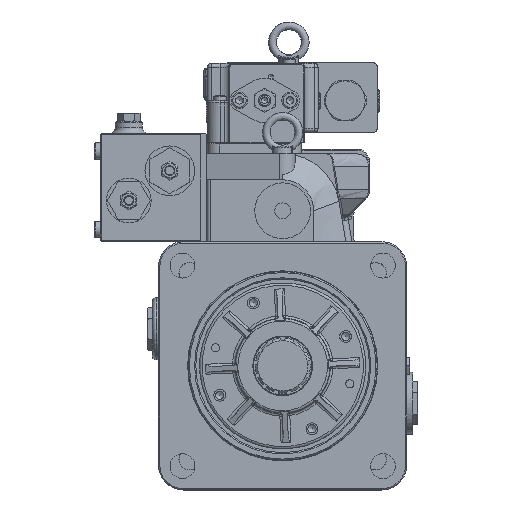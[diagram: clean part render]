
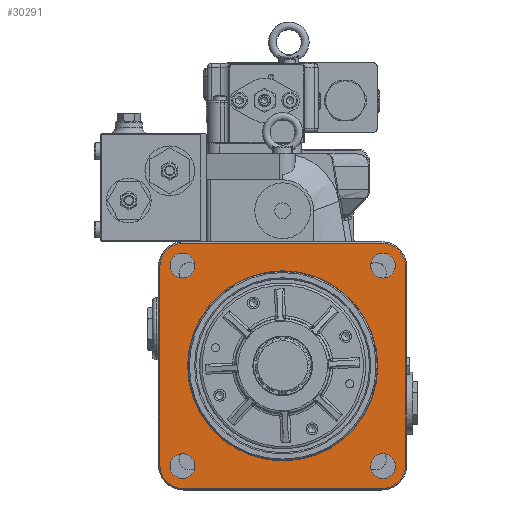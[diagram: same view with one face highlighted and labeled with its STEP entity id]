
A CAD part, top view. The second image highlights one B-rep face of the part: STEP entity #30291.
In plain terms, the highlighted planar face has unit normal (0, 0, 1).
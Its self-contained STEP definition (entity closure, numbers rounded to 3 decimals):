
#990=LINE('',#49852,#2873);
#995=LINE('',#49870,#2878);
#999=LINE('',#49877,#2882);
#1003=LINE('',#49892,#2886);
#2873=VECTOR('',#38251,0.394);
#2878=VECTOR('',#38270,0.394);
#2882=VECTOR('',#38276,0.394);
#2886=VECTOR('',#38294,0.394);
#4941=PLANE('',#32944);
#6172=FACE_BOUND('',#9416,.T.);
#6173=FACE_BOUND('',#9417,.T.);
#6174=FACE_BOUND('',#9418,.T.);
#6175=FACE_BOUND('',#9419,.T.);
#6176=FACE_BOUND('',#9420,.T.);
#7186=FACE_OUTER_BOUND('',#9415,.T.);
#9415=EDGE_LOOP('',(#21916,#21917,#21918,#21919,#21920,#21921,#21922,#21923));
#9416=EDGE_LOOP('',(#21924));
#9417=EDGE_LOOP('',(#21925));
#9418=EDGE_LOOP('',(#21926));
#9419=EDGE_LOOP('',(#21927));
#9420=EDGE_LOOP('',(#21928));
#11434=CIRCLE('',#32555,0.394);
#11436=CIRCLE('',#32558,0.394);
#11438=CIRCLE('',#32561,0.394);
#11440=CIRCLE('',#32564,0.394);
#11639=CIRCLE('',#32927,0.748);
#11642=CIRCLE('',#32931,0.748);
#11643=CIRCLE('',#32935,0.748);
#11646=CIRCLE('',#32939,0.748);
#11647=CIRCLE('',#32945,3.016);
#13275=VERTEX_POINT('',#47654);
#13277=VERTEX_POINT('',#47659);
#13279=VERTEX_POINT('',#47664);
#13281=VERTEX_POINT('',#47669);
#13583=VERTEX_POINT('',#49849);
#13584=VERTEX_POINT('',#49851);
#13586=VERTEX_POINT('',#49856);
#13587=VERTEX_POINT('',#49861);
#13590=VERTEX_POINT('',#49868);
#13591=VERTEX_POINT('',#49873);
#13594=VERTEX_POINT('',#49880);
#13595=VERTEX_POINT('',#49885);
#13597=VERTEX_POINT('',#49900);
#16183=EDGE_CURVE('',#13275,#13275,#11434,.T.);
#16185=EDGE_CURVE('',#13277,#13277,#11436,.T.);
#16187=EDGE_CURVE('',#13279,#13279,#11438,.T.);
#16189=EDGE_CURVE('',#13281,#13281,#11440,.T.);
#16629=EDGE_CURVE('',#13583,#13584,#990,.T.);
#16632=EDGE_CURVE('',#13586,#13583,#11639,.T.);
#16636=EDGE_CURVE('',#13584,#13587,#11642,.T.);
#16638=EDGE_CURVE('',#13590,#13586,#995,.T.);
#16642=EDGE_CURVE('',#13587,#13591,#999,.T.);
#16644=EDGE_CURVE('',#13594,#13590,#11643,.T.);
#16648=EDGE_CURVE('',#13591,#13595,#11646,.T.);
#16650=EDGE_CURVE('',#13595,#13594,#1003,.T.);
#16654=EDGE_CURVE('',#13597,#13597,#11647,.T.);
#21916=ORIENTED_EDGE('',*,*,#16629,.F.);
#21917=ORIENTED_EDGE('',*,*,#16632,.F.);
#21918=ORIENTED_EDGE('',*,*,#16638,.F.);
#21919=ORIENTED_EDGE('',*,*,#16644,.F.);
#21920=ORIENTED_EDGE('',*,*,#16650,.F.);
#21921=ORIENTED_EDGE('',*,*,#16648,.F.);
#21922=ORIENTED_EDGE('',*,*,#16642,.F.);
#21923=ORIENTED_EDGE('',*,*,#16636,.F.);
#21924=ORIENTED_EDGE('',*,*,#16183,.T.);
#21925=ORIENTED_EDGE('',*,*,#16185,.T.);
#21926=ORIENTED_EDGE('',*,*,#16187,.T.);
#21927=ORIENTED_EDGE('',*,*,#16189,.T.);
#21928=ORIENTED_EDGE('',*,*,#16654,.F.);
#30291=ADVANCED_FACE('',(#7186,#6172,#6173,#6174,#6175,#6176),#4941,.T.);
#32555=AXIS2_PLACEMENT_3D('',#47655,#37342,#37343);
#32558=AXIS2_PLACEMENT_3D('',#47660,#37348,#37349);
#32561=AXIS2_PLACEMENT_3D('',#47665,#37354,#37355);
#32564=AXIS2_PLACEMENT_3D('',#47670,#37360,#37361);
#32927=AXIS2_PLACEMENT_3D('',#49858,#38256,#38257);
#32931=AXIS2_PLACEMENT_3D('',#49865,#38265,#38266);
#32935=AXIS2_PLACEMENT_3D('',#49882,#38280,#38281);
#32939=AXIS2_PLACEMENT_3D('',#49889,#38289,#38290);
#32944=AXIS2_PLACEMENT_3D('',#49899,#38304,#38305);
#32945=AXIS2_PLACEMENT_3D('',#49901,#38306,#38307);
#37342=DIRECTION('center_axis',(0.,0.,-1.));
#37343=DIRECTION('ref_axis',(-1.,0.,0.));
#37348=DIRECTION('center_axis',(0.,0.,-1.));
#37349=DIRECTION('ref_axis',(-1.,0.,0.));
#37354=DIRECTION('center_axis',(0.,0.,-1.));
#37355=DIRECTION('ref_axis',(-1.,0.,0.));
#37360=DIRECTION('center_axis',(0.,0.,-1.));
#37361=DIRECTION('ref_axis',(-1.,0.,0.));
#38251=DIRECTION('',(1.,0.,0.));
#38256=DIRECTION('center_axis',(0.,0.,-1.));
#38257=DIRECTION('ref_axis',(0.,1.,0.));
#38265=DIRECTION('center_axis',(0.,0.,-1.));
#38266=DIRECTION('ref_axis',(1.,0.,0.));
#38270=DIRECTION('',(0.,1.,0.));
#38276=DIRECTION('',(0.,-1.,0.));
#38280=DIRECTION('center_axis',(0.,0.,-1.));
#38281=DIRECTION('ref_axis',(-1.,0.,0.));
#38289=DIRECTION('center_axis',(0.,0.,-1.));
#38290=DIRECTION('ref_axis',(0.,-1.,0.));
#38294=DIRECTION('',(-1.,0.,0.));
#38304=DIRECTION('center_axis',(0.,0.,1.));
#38305=DIRECTION('ref_axis',(1.,0.,0.));
#38306=DIRECTION('center_axis',(0.,0.,1.));
#38307=DIRECTION('ref_axis',(-1.,0.,0.));
#47654=CARTESIAN_POINT('',(3.575,-3.181,0.906));
#47655=CARTESIAN_POINT('Origin',(3.181,-3.181,0.906));
#47659=CARTESIAN_POINT('',(-2.787,3.181,0.906));
#47660=CARTESIAN_POINT('Origin',(-3.181,3.181,0.906));
#47664=CARTESIAN_POINT('',(3.575,3.181,0.906));
#47665=CARTESIAN_POINT('Origin',(3.181,3.181,0.906));
#47669=CARTESIAN_POINT('',(-2.787,-3.181,0.906));
#47670=CARTESIAN_POINT('Origin',(-3.181,-3.181,0.906));
#49849=CARTESIAN_POINT('',(-3.15,3.898,0.906));
#49851=CARTESIAN_POINT('',(3.15,3.898,0.906));
#49852=CARTESIAN_POINT('',(-1.575,3.898,0.906));
#49856=CARTESIAN_POINT('',(-3.898,3.15,0.906));
#49858=CARTESIAN_POINT('Origin',(-3.15,3.15,0.906));
#49861=CARTESIAN_POINT('',(3.898,3.15,0.906));
#49865=CARTESIAN_POINT('Origin',(3.15,3.15,0.906));
#49868=CARTESIAN_POINT('',(-3.898,-3.15,0.906));
#49870=CARTESIAN_POINT('',(-3.898,-1.575,0.906));
#49873=CARTESIAN_POINT('',(3.898,-3.15,0.906));
#49877=CARTESIAN_POINT('',(3.898,1.575,0.906));
#49880=CARTESIAN_POINT('',(-3.15,-3.898,0.906));
#49882=CARTESIAN_POINT('Origin',(-3.15,-3.15,0.906));
#49885=CARTESIAN_POINT('',(3.15,-3.898,0.906));
#49889=CARTESIAN_POINT('Origin',(3.15,-3.15,0.906));
#49892=CARTESIAN_POINT('',(1.575,-3.898,0.906));
#49899=CARTESIAN_POINT('Origin',(0.,0.,
0.906));
#49900=CARTESIAN_POINT('',(3.016,0.,0.906));
#49901=CARTESIAN_POINT('Origin',(0.,0.,0.906));
